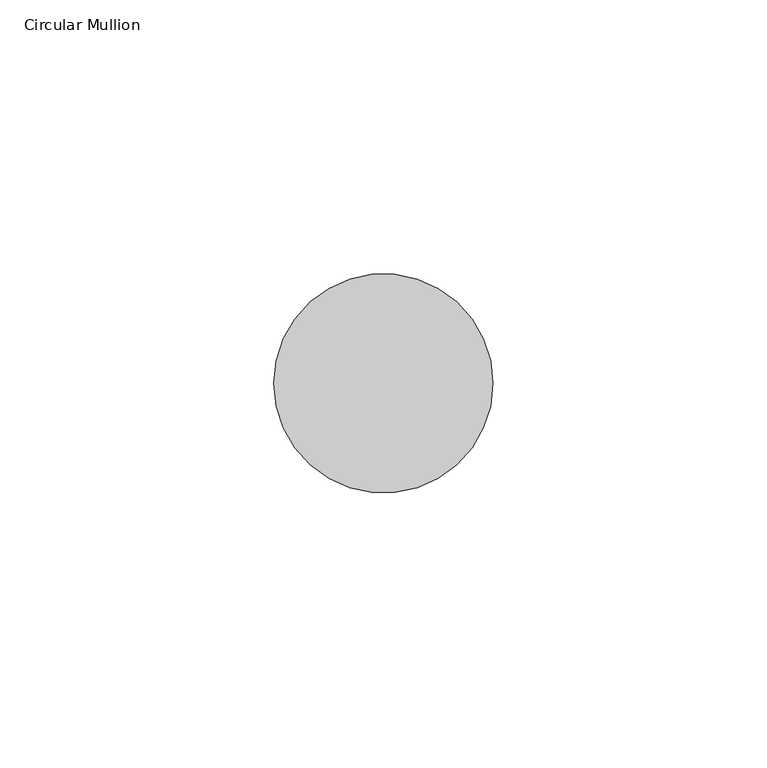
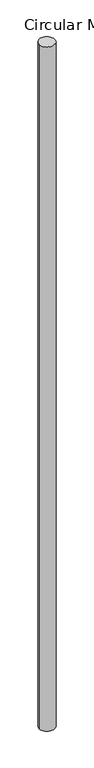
"""IFC4 building model written with IfcOpenShell, lengths in millimetres: member geometry, Circular Mullion : GRADIL 40mm."""

from ifc_helpers import new_model, si_unit, point, frame, origin, origin_2d, place, context, project, spatial, circle_curve, trimmed, segment, composite_curve, outline, extrude, source, transform, mapped, element, save


def circular_mullion_25bdcd02(model_context):
    return source(origin(), model_context, "Body", "SweptSolid", [
        extrude(outline(composite_curve([segment(trimmed(circle_curve(origin_2d(), 20.0), [point((20.0, 0.0))], [point((-20.0, 0.0))], False, "CARTESIAN"), True, "CONTINUOUS"), segment(trimmed(circle_curve(origin_2d(), 20.0), [point((-20.0, 0.0))], [point((20.0, 0.0))], False, "CARTESIAN"), True, "CONTINUOUS")], self_intersect=False)), frame((0.0, 0.0, -1866.8725288), z_axis=(0.0, 0.0, 1.0), x_axis=(1.0, 0.0, 0.0)), (0.0, 0.0, 1.0), 1866.8725288),
    ])


if __name__ == "__main__":
    model = new_model("IFC4")
    model_context = context("Model", 3, world=origin())
    ifc_project = project(units=[si_unit("LENGTHUNIT", "METRE", prefix="MILLI")], contexts=[model_context])
    site = spatial("IfcSite", under=ifc_project)
    building = spatial("IfcBuilding", under=site)
    placement = place(None, origin())
    circular_mullion_shape = circular_mullion_25bdcd02(model_context)
    element("IfcMember", 1, ObjectType="Circular Mullion : GRADIL 40mm", at=placement, inside=building, context=model_context, shape_type="MappedRepresentation", body=[
        mapped(circular_mullion_shape, transform((0.0, 0.0, 0.0), x_axis=(1.0, 0.0, 0.0), y_axis=(0.0, 1.0, 0.0), z_axis=(0.0, 0.0, 1.0))),
    ])
    save(model, "model.ifc")
